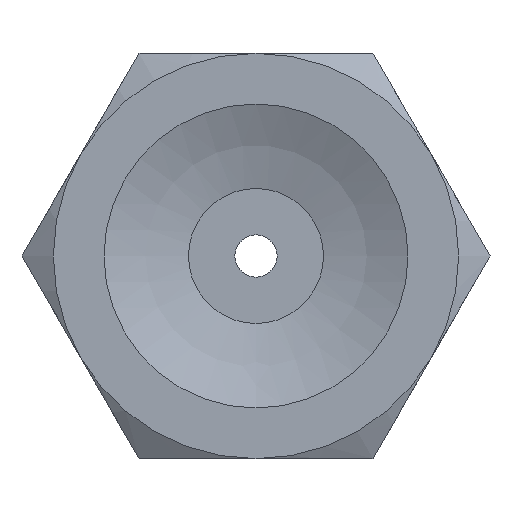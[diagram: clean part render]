
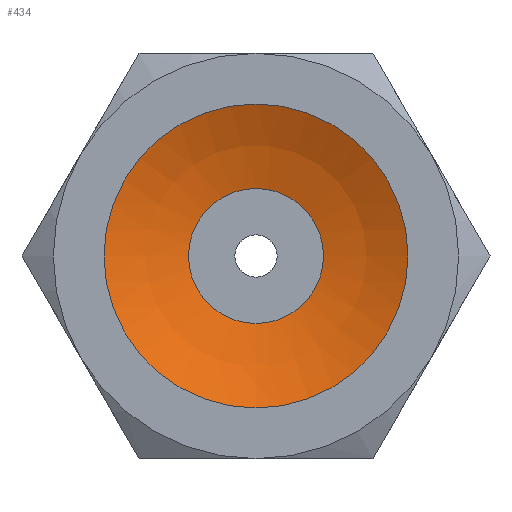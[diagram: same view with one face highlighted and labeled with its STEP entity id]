
A CAD part, front view. The second image highlights one B-rep face of the part: STEP entity #434.
In plain terms, the highlighted spherical face has radius 10.203 mm.
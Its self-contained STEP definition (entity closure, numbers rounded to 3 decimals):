
#434=ADVANCED_FACE('',(#685,#686),#687,.F.);
#685=FACE_OUTER_BOUND('',#971,.T.);
#686=FACE_OUTER_BOUND('',#972,.T.);
#687=SPHERICAL_SURFACE('',#973,10.203);
#971=EDGE_LOOP('',(#1648));
#972=EDGE_LOOP('',(#1649));
#973=AXIS2_PLACEMENT_3D('',#1650,#1651,#1652);
#1648=ORIENTED_EDGE('',*,*,#1909,.T.);
#1649=ORIENTED_EDGE('',*,*,#1910,.F.);
#1650=CARTESIAN_POINT('',(0.,-9.157,0.));
#1651=DIRECTION('',(0.0,-1.0,0.));
#1652=DIRECTION('',(1.0,0.0,0.0));
#1909=EDGE_CURVE('',#2213,#2213,#2214,.T.);
#1910=EDGE_CURVE('',#2215,#2215,#2216,.T.);
#2213=VERTEX_POINT('',#2947);
#2214=CIRCLE('',#2948,4.5);
#2215=VERTEX_POINT('',#2949);
#2216=CIRCLE('',#2950,2.);
#2947=CARTESIAN_POINT('',(0.0,0.,-4.5));
#2948=AXIS2_PLACEMENT_3D('',#3228,#3229,#3230);
#2949=CARTESIAN_POINT('',(0.0,0.848,-2.));
#2950=AXIS2_PLACEMENT_3D('',#3231,#3232,#3233);
#3228=CARTESIAN_POINT('',(0.0,0.,0.0));
#3229=DIRECTION('',(0.0,-1.0,0.));
#3230=DIRECTION('',(0.0,0.,-1.0));
#3231=CARTESIAN_POINT('',(0.0,0.848,0.0));
#3232=DIRECTION('',(0.0,-1.0,0.));
#3233=DIRECTION('',(0.0,0.,-1.0));
